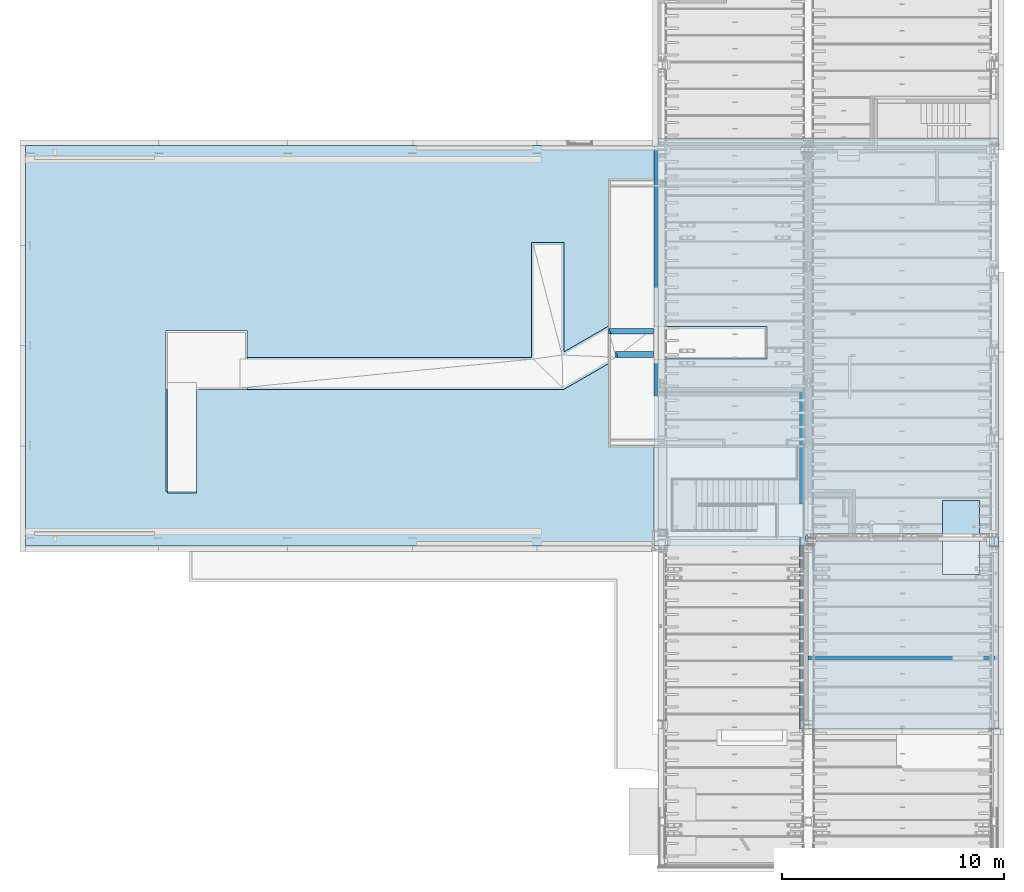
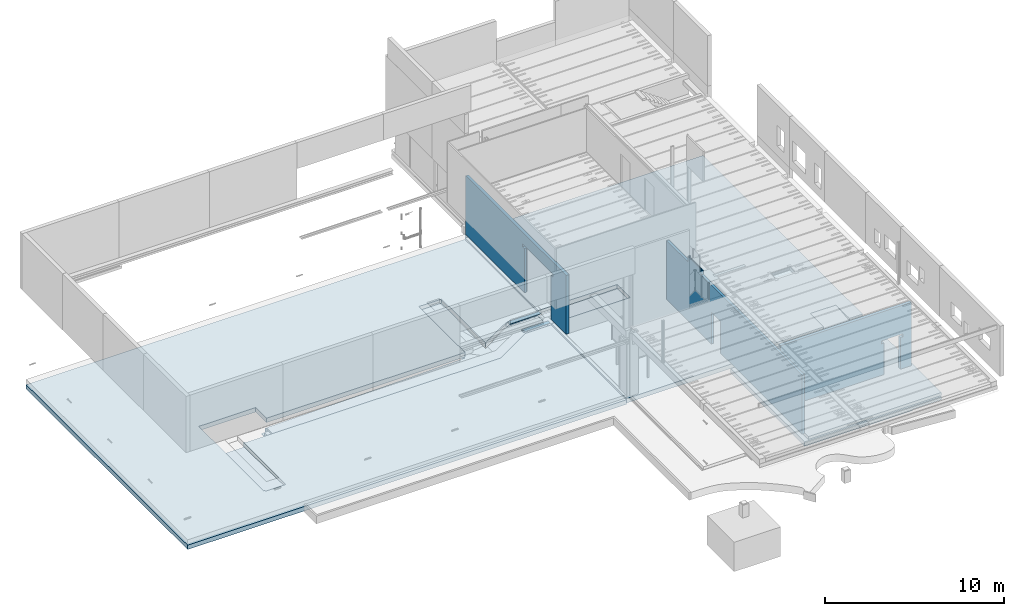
# One storey, part 210 of 230: 7 slabs, 5 walls.
"""IFC4X3_ADD2 building model written with IfcOpenShell, lengths in millimetres."""

from ifc_helpers import new_model, si_unit, direction, origin_with_axes, place, context, subcontext, project, spatial, faceted_brep, polygons, source, transform, mapped, material, type_object, type_shapes, element, save


model = new_model("IFC4X3_ADD2")

# Units and contexts
model_context = context("Model", 3, precision=1e-05, world=origin_with_axes(), true_north=direction((0.0, 1.0)))
body_context = subcontext(model_context, "Body", "Model", "MODEL_VIEW")
ifc_project = project(units=[si_unit("LENGTHUNIT", "METRE", prefix="MILLI"), si_unit("AREAUNIT", "SQUARE_METRE"), si_unit("VOLUMEUNIT", "CUBIC_METRE"), si_unit("PLANEANGLEUNIT", "RADIAN"), si_unit("TIMEUNIT", "SECOND"), si_unit("MASSUNIT", "GRAM")], contexts=[model_context])

# Site, building, storey
site_placement = place(None, origin_with_axes())
site = spatial("IfcSite", under=ifc_project, at=site_placement, Name="Site", CompositionType="ELEMENT")
building_placement = place(site_placement, origin_with_axes())
building = spatial("IfcBuilding", under=site, at=building_placement, Name="IFC Building Story")
storey_placement = place(building_placement, origin_with_axes())
storey = spatial("IfcBuildingStorey", under=building, at=storey_placement, Name="ETAGE 00 (0)", Elevation=0.0)

# Slabs
slab_type = type_object("IfcSlabType", Name="Sol_BS_13_FL_STAB50-EMPI250", PredefinedType="NOTDEFINED")
shared_shape = source(origin_with_axes(), body_context, "Body", "Tessellation", [
    polygons([(14401.6894781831, 7020.0, -1310.0), (14401.6894781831, 7020.0, -1010.0), (14401.6894781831, 8150.0, -1010.0), (14401.6894781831, 8150.0, -1280.0), (14401.6894781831, 8480.0, -1280.0), (14401.6894781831, 8480.0, -1310.0), (27506.6894781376, 8480.0, -741.3), (27506.6894781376, 8480.0, -1041.3), (14651.6894781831, 8480.0, -1280.0), (14651.6894781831, 8480.0, -1004.87409385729), (14651.689478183, 7020.0, -1305.03019118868), (14651.689478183, 7020.0, -1005.03019118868), (27506.6894781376, 13631.6303948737, -638.4000000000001), (27506.6894781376, 13631.6303948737, -938.4000000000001), (28966.689478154, 13631.6303948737, -638.4000000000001), (28966.689478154, 13631.6303948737, -938.4000000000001), (28966.689478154, 8721.576766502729, -725.4000000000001), (28966.689478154, 8721.576766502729, -1025.4), (30938.4963590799, 9860.0, -670.0), (30938.4963590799, 9860.0, -970.0), (32991.6894781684, 9860.0, -630.0), (32991.6894781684, 9860.0, -930.0), (32991.6894781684, 8400.0, -630.0), (32991.6894781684, 8400.0, -930.0), (31329.7021800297, 8400.0, -665.8), (31329.7021800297, 8400.0, -965.8), (28939.4720655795, 7020.0, -721.0), (28939.4720655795, 7020.0, -1021.0), (14651.689478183, 7047.851964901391, -1004.87409385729), (14651.689478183, 7047.851964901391, -1304.87409385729), (14651.6894781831, 8150.0, -1004.87409385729), (14731.689478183, 7056.76459366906, -1303.23380389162), (14731.689478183, 8440.0, -1303.23380389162), (14651.689478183, 8440.0, -1304.87409385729), (14651.6894781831, 8440.0, -1280.0), (14651.6894781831, 8440.0, -1004.87409385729), (14651.6894781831, 8150.0, -1280.0), (14731.689478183, 8440.0, -1003.23380389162), (14731.689478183, 7020.0, -1303.43985236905), (14731.689478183, 7020.0, -1003.43985236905), (14731.689478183, 7056.76459366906, -1003.23380389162)], [[[4, 5, 6]], [[4, 6, 1]], [[1, 2, 3]], [[1, 3, 4]], [[9, 10, 7]], [[9, 7, 8]], [[8, 6, 9]], [[6, 5, 9]], [[2, 1, 11, 12]], [[8, 7, 13, 14]], [[14, 13, 15, 16]], [[16, 15, 17, 18]], [[18, 17, 19, 20]], [[20, 19, 21, 22]], [[22, 21, 23, 24]], [[24, 23, 25, 26]], [[26, 25, 27, 28]], [[2, 12, 29]], [[11, 1, 30]], [[3, 2, 29, 31]], [[34, 30, 1]], [[34, 1, 6]], [[6, 33, 34]], [[33, 6, 8]], [[8, 32, 33]], [[27, 25, 17]], [[26, 28, 18]], [[17, 15, 13]], [[25, 23, 21]], [[7, 27, 17]], [[16, 18, 14]], [[24, 26, 22]], [[28, 8, 18]], [[13, 7, 17]], [[8, 14, 18]], [[19, 17, 25]], [[21, 19, 25]], [[18, 20, 26]], [[20, 22, 26]], [[10, 9, 35, 36]], [[37, 4, 3, 31]], [[29, 12, 11]], [[29, 11, 30]], [[30, 37, 31]], [[30, 31, 29]], [[30, 34, 37]], [[34, 35, 37]], [[32, 39, 40]], [[32, 40, 41]], [[41, 38, 33]], [[41, 33, 32]], [[35, 34, 33]], [[33, 38, 36]], [[33, 36, 35]], [[35, 9, 5]], [[5, 4, 37]], [[5, 37, 35]], [[38, 41, 7]], [[7, 10, 38]], [[10, 36, 38]], [[8, 28, 39, 32]], [[27, 7, 41, 40]], [[28, 27, 40, 39]]]),
    polygons([(11151.6894781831, 7020.0, -640.0), (11151.6894781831, 7020.0, -940.0), (11151.6894781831, 5926.96737813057, -916.964043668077), (11151.6894781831, 2370.0, -842.0), (11151.6894781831, 2370.0, -542.0), (12451.6894781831, 7020.0, -640.0), (12451.6894781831, 7020.0, -940.0), (12451.6894781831, 2370.0, -542.0), (12451.6894781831, 2370.0, -842.0), (12451.6894781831, 5926.96737813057, -916.964043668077)], [[[3, 4, 5]], [[3, 5, 1]], [[1, 2, 3]], [[2, 1, 6, 7]], [[10, 7, 6]], [[6, 8, 9]], [[6, 9, 10]], [[9, 8, 5, 4]], [[1, 5, 8, 6]], [[10, 9, 4]], [[10, 4, 3]], [[3, 2, 7]], [[3, 7, 10]]]),
])
type_shapes(slab_type, [shared_shape])
slab_1_placement = place(storey_placement, origin_with_axes())
element("IfcSlab", 1, at=slab_1_placement, inside=storey, type_object=slab_type, Name="Sol:BS_13_FL_STAB50-EMPI250", ObjectType="Sol:BS_13_FL_STAB50-EMPI250", PredefinedType="FLOOR", context=body_context, shape_type="MappedRepresentation", body=[
    mapped(shared_shape, transform((0.0, 0.0, 0.0))),
])
slab_2_placement = place(storey_placement, origin_with_axes())
element("IfcSlab", 2, at=slab_2_placement, inside=storey, Name="Sol:BS_13_FL_BTcoulé200", ObjectType="Sol:BS_13_FL_BTcoulé200", PredefinedType="FLOOR", context=body_context, shape_type="Tessellation", body=[
    polygons([(48501.68947815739, 0.0, -500.0), (48501.68947815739, -8230.00008672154, -500.0), (39951.6894781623, -8230.00008672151, -500.0), (39951.6894781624, 0.0, -500.0), (40161.6894781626, 0.0, -500.0), (40161.6894781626, 210.0, -500.0), (48116.188, 210.0, -500.0), (48116.188, 0.0, -500.0), (47651.6894781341, -1280.02487577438, -500.0), (45991.6894781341, -1280.02487577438, -500.0), (45991.6894781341, -1290.0, -500.0), (47651.6894781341, -1290.0, -500.0), (48501.68947815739, -8230.00008672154, -300.0), (48501.68947815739, 0.0, -300.0), (48116.188, 0.0, -300.0), (48116.188, 210.0, -300.0), (47651.6894781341, 210.0, -300.0), (47651.6894781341, -1290.0, -300.0), (45991.6894781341, -1290.0, -300.0), (45991.6894781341, 210.0, -300.0), (40161.6894781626, 210.0, -300.0), (40161.6894781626, 0.0, -300.0), (39951.6894781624, 0.0, -300.0), (39951.6894781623, -8230.00008672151, -300.0), (45991.6894781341, 210.0, -350.997512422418), (47651.6894781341, 210.0, -350.997512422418)], [[[8, 1, 9]], [[9, 5, 6]], [[9, 6, 7]], [[9, 7, 8]], [[12, 9, 1]], [[12, 1, 2]], [[2, 11, 12]], [[2, 3, 5]], [[2, 5, 11]], [[5, 10, 11]], [[5, 9, 10]], [[3, 4, 5]], [[15, 16, 17]], [[22, 23, 19]], [[19, 20, 21]], [[19, 21, 22]], [[19, 23, 24]], [[19, 24, 13]], [[13, 18, 19]], [[13, 14, 18]], [[15, 17, 18]], [[18, 14, 15]], [[2, 1, 14, 13]], [[3, 2, 13, 24]], [[4, 3, 24, 23]], [[5, 4, 23, 22]], [[6, 5, 22, 21]], [[26, 17, 16]], [[26, 16, 7]], [[7, 25, 26]], [[25, 7, 6]], [[6, 21, 25]], [[21, 20, 25]], [[8, 7, 16, 15]], [[1, 8, 15, 14]], [[25, 10, 9, 26]], [[9, 12, 18]], [[18, 17, 26]], [[18, 26, 9]], [[18, 12, 11, 19]], [[10, 25, 20]], [[10, 20, 19]], [[19, 11, 10]]]),
])
slab_3_placement = place(storey_placement, origin_with_axes())
element("IfcSlab", 3, at=slab_3_placement, inside=storey, Name="Sol:BS_13_FL_STAB50-EMPI250", ObjectType="Sol:BS_13_FL_STAB50-EMPI250", PredefinedType="FLOOR", context=body_context, shape_type="Tessellation", body=[
    polygons([(40161.6894781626, 460.0, -880.0), (48501.68947815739, 460.0, -880.0), (48501.68947815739, -1500.0, -880.0), (48235.1894781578, -1500.0, -880.0), (48235.1894781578, -6380.00008672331, -880.0), (46656.68947815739, -6380.00008672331, -880.0), (46656.68947815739, -8230.00008672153, -880.0), (39701.6894781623, -8230.00008672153, -880.0), (39701.6894781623, 0.0, -880.0), (40161.6894781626, 0.0, -880.0), (48501.68947815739, -8230.00008672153, -580.0), (48501.68947815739, 460.0, -580.0), (40161.6894781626, 460.0, -580.0), (40161.6894781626, 0.0, -580.0), (39701.6894781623, 0.0, -580.0), (39701.6894781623, -8230.00008672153, -580.0), (48501.68947815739, -8230.00008672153, -800.0), (48501.68947815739, -1500.0, -800.0), (46656.68947815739, -8230.00008672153, -800.0), (46656.68947815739, -6380.00008672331, -800.0), (48235.1894781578, -6380.00008672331, -800.0), (48235.1894781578, -1500.0, -800.0)], [[[6, 7, 8]], [[8, 9, 4]], [[8, 4, 6]], [[4, 5, 6]], [[10, 1, 2]], [[10, 2, 4]], [[4, 9, 10]], [[2, 3, 4]], [[14, 15, 16]], [[14, 16, 11]], [[14, 11, 12]], [[12, 13, 14]], [[18, 3, 2]], [[18, 2, 12]], [[12, 11, 17]], [[12, 17, 18]], [[19, 17, 11]], [[19, 11, 16]], [[19, 16, 8]], [[8, 7, 19]], [[2, 1, 13, 12]], [[9, 8, 16, 15]], [[10, 9, 15, 14]], [[1, 10, 14, 13]], [[21, 22, 18]], [[21, 18, 17]], [[17, 19, 20]], [[17, 20, 21]], [[20, 6, 5, 21]], [[20, 19, 7, 6]], [[22, 4, 3, 18]], [[22, 21, 5, 4]]]),
])
slab_4_placement = place(storey_placement, origin_with_axes())
element("IfcSlab", 4, at=slab_4_placement, inside=storey, Name="Sol:BS_13_FL_STAB50-EMPI250", ObjectType="Sol:BS_13_FL_STAB50-EMPI250", PredefinedType="FLOOR", context=body_context, shape_type="Tessellation", body=[
    polygons([(4766.18947818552, 18000.0, -660.0), (32991.6894781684, 18000.0, -660.0), (32991.6894781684, 9860.0, -660.0), (30938.4963590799, 9860.0, -660.0), (28966.689478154, 8721.57676650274, -660.0), (28966.689478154, 13631.6303948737, -660.0), (27506.6894781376, 13631.6303948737, -660.0), (27506.6894781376, 8480.0, -660.0), (14731.6894781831, 8480.0, -660.0), (14731.6894781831, 9680.0, -660.0), (11071.6894781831, 9680.0, -660.0), (11071.6894781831, 7020.0, -660.0), (11151.6894781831, 7020.0, -660.0), (11151.6894781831, 2370.0, -660.0), (12451.6894781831, 2370.0, -660.0), (12451.6894781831, 7100.0, -660.0), (12491.6894781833, 7100.0, -660.0), (12491.6894781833, 7020.0, -660.0), (28939.4720655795, 7020.0, -660.0), (31329.7021800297, 8400.0, -660.0), (32991.6894781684, 8400.0, -660.0), (32991.6894781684, 0.0, -660.0), (4766.18947818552, 0.0, -660.0), (32991.6894781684, 18000.0, -360.0), (4766.18947818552, 18000.0, -360.0), (4766.18947818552, 0.0, -360.0), (32991.6894781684, 0.0, -360.0), (32991.6894781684, 8400.0, -360.0), (31329.7021800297, 8400.0, -360.0), (28939.4720655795, 7020.0, -360.0), (14651.689478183, 7020.0, -360.0), (12531.6894781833, 7020.0, -360.0), (12531.6894781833, 7100.0, -360.0), (12451.6894781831, 7100.0, -360.0), (12451.6894781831, 2450.0, -360.0), (12451.6894781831, 2370.0, -360.0), (11151.6894781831, 2370.0, -360.0), (11151.6894781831, 2450.0, -360.0), (11071.6894781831, 2450.0, -360.0), (11071.6894781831, 7020.0, -360.0), (11071.6894781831, 9600.0, -360.0), (11071.6894781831, 9680.0, -360.0), (14731.6894781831, 9680.0, -360.0), (14731.6894781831, 9600.0, -360.0), (14731.6894781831, 8480.0, -360.0), (27506.6894781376, 8480.0, -360.0), (27506.6894781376, 13631.6303948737, -360.0), (28966.689478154, 13631.6303948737, -360.0), (28966.689478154, 8721.57676650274, -360.0), (30938.4963590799, 9860.0, -360.0), (32991.6894781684, 9860.0, -360.0), (11151.6894781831, 7020.0, -640.017764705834), (11151.6894781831, 2450.0, -543.703786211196), (12451.6894781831, 7100.0, -555.0), (12531.6894781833, 7100.0, -639.1786725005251), (12491.6894781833, 7100.0, -639.1786725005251), (11071.6894781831, 2450.0, -543.703786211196), (11071.6894781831, 7020.0, -640.017764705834), (12531.6894781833, 7020.0, -639.1786725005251), (12491.6894781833, 7020.0, -639.1786725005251)], [[[19, 20, 21]], [[19, 21, 22]], [[22, 15, 18]], [[22, 18, 19]], [[15, 16, 18]], [[16, 17, 18]], [[22, 23, 15]], [[23, 14, 15]], [[23, 12, 13]], [[23, 13, 14]], [[23, 1, 11]], [[23, 11, 12]], [[1, 10, 11]], [[10, 1, 7]], [[10, 7, 8]], [[8, 9, 10]], [[1, 2, 7]], [[2, 6, 7]], [[2, 4, 5]], [[2, 5, 6]], [[2, 3, 4]], [[32, 33, 34]], [[32, 34, 35]], [[35, 31, 32]], [[44, 45, 46]], [[46, 43, 44]], [[50, 51, 24]], [[50, 24, 48]], [[48, 49, 50]], [[24, 47, 48]], [[47, 24, 25]], [[47, 25, 43]], [[43, 46, 47]], [[25, 42, 43]], [[25, 41, 42]], [[25, 26, 40]], [[25, 40, 41]], [[26, 39, 40]], [[26, 37, 39]], [[37, 38, 39]], [[26, 36, 37]], [[36, 26, 27]], [[27, 30, 36]], [[30, 31, 35]], [[30, 35, 36]], [[27, 28, 30]], [[28, 29, 30]], [[2, 1, 25, 24]], [[3, 2, 24, 51]], [[4, 3, 51, 50]], [[5, 4, 50, 49]], [[6, 5, 49, 48]], [[7, 6, 48, 47]], [[7, 47, 46, 8]], [[53, 38, 37]], [[53, 37, 14]], [[14, 13, 52]], [[14, 52, 53]], [[15, 14, 37, 36]], [[54, 16, 15]], [[54, 15, 35]], [[35, 34, 54]], [[15, 36, 35]], [[54, 34, 33]], [[54, 33, 55]], [[56, 17, 16]], [[56, 16, 54]], [[54, 55, 56]], [[20, 19, 30, 29]], [[21, 20, 29, 28]], [[22, 21, 28, 27]], [[23, 22, 27, 26]], [[1, 23, 26, 25]], [[11, 10, 43, 42]], [[44, 43, 10]], [[10, 9, 45]], [[10, 45, 44]], [[58, 12, 11]], [[40, 39, 57]], [[40, 57, 58]], [[58, 11, 41]], [[58, 41, 40]], [[11, 42, 41]], [[57, 39, 38, 53]], [[58, 57, 53, 52]], [[13, 12, 58, 52]], [[32, 59, 55, 33]], [[9, 8, 46, 45]], [[31, 30, 19]], [[31, 19, 59]], [[59, 32, 31]], [[19, 18, 59]], [[18, 60, 59]], [[56, 60, 18, 17]], [[59, 60, 56, 55]]]),
])
slab_5_placement = place(storey_placement, origin_with_axes())
element("IfcSlab", 5, at=slab_5_placement, inside=storey, Name="Sol:BS_13_FL_STAB50-EMPI250", ObjectType="Sol:BS_13_FL_STAB50-EMPI250", PredefinedType="FLOOR", context=body_context, shape_type="Tessellation", body=[
    polygons([(48501.68947815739, 18330.0, -580.0), (48501.68947815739, 540.0, -580.0), (47651.6894781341, 540.0, -580.0), (47651.6894781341, 2040.0, -580.0), (47651.6894781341, 2040.50000000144, -580.0), (45991.6894781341, 2040.50000000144, -580.0), (45991.6894781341, 2040.0, -580.0), (45991.6894781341, 540.0, -580.0), (39951.6894781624, 540.0, -580.0), (39951.6894781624, 0.0, -580.0), (33011.6894781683, 0.0, -580.0), (33011.6894781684, 8400.0, -580.0), (38089.6178134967, 8400.0, -580.0), (38089.6178134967, 9860.0, -580.0), (33011.6894781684, 9860.0, -580.0), (33011.6894781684, 18000.0, -580.0), (33201.6894781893, 18000.0, -580.0), (33201.6894781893, 18330.0, -580.0), (48501.68947815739, 540.0, -280.0), (48501.68947815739, 18330.0, -280.0), (33201.6894781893, 18330.0, -280.0), (33201.6894781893, 18000.0, -280.0), (33011.6894781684, 18000.0, -280.0), (33011.6894781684, 9860.0, -280.0), (38089.6178134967, 9860.0, -280.0), (38089.6178134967, 8400.0, -280.0), (33011.6894781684, 8400.0, -280.0), (33011.6894781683, 0.0, -280.0), (39951.6894781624, 0.0, -280.0), (39951.6894781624, 210.0, -280.0), (39826.6894781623, 210.0, -280.0), (39826.6894781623, 460.0, -280.0), (39951.6894781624, 460.0, -280.0), (39951.6894781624, 540.0, -280.0), (45991.6894781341, 540.0, -280.0), (45991.6894781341, 2040.50000000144, -280.0), (47651.6894781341, 2040.50000000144, -280.0), (47651.6894781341, 540.0, -280.0), (45991.6894781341, 540.0, -430.399004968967), (39951.6894781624, 460.0, -500.0), (39951.6894781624, 210.0, -500.0), (39826.6894781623, 210.0, -500.0), (39826.6894781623, 460.0, -500.0), (47651.6894781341, 540.0, -430.0)], [[[9, 10, 11]], [[11, 7, 9]], [[7, 8, 9]], [[11, 6, 7]], [[17, 18, 14]], [[14, 15, 17]], [[15, 16, 17]], [[18, 1, 5]], [[18, 5, 14]], [[5, 13, 14]], [[6, 11, 12]], [[6, 12, 13]], [[13, 5, 6]], [[1, 2, 5]], [[2, 4, 5]], [[2, 3, 4]], [[22, 23, 24]], [[34, 35, 36]], [[34, 36, 26]], [[26, 32, 34]], [[32, 33, 34]], [[26, 27, 28]], [[26, 28, 31]], [[26, 31, 32]], [[28, 29, 31]], [[29, 30, 31]], [[37, 38, 19]], [[37, 19, 20]], [[20, 25, 26]], [[20, 26, 36]], [[20, 36, 37]], [[22, 24, 25]], [[25, 20, 21]], [[25, 21, 22]], [[2, 1, 20, 19]], [[11, 10, 29, 28]], [[1, 18, 21, 20]], [[39, 35, 34]], [[39, 34, 9]], [[9, 8, 39]], [[41, 30, 29]], [[41, 29, 10]], [[10, 9, 40]], [[10, 40, 41]], [[9, 34, 33]], [[9, 33, 40]], [[12, 11, 28, 27]], [[42, 31, 30, 41]], [[43, 40, 33, 32]], [[42, 43, 32, 31]], [[43, 42, 41, 40]], [[13, 12, 27, 26]], [[14, 13, 26, 25]], [[15, 14, 25, 24]], [[16, 15, 24, 23]], [[44, 3, 2]], [[44, 2, 19]], [[19, 38, 44]], [[44, 38, 37]], [[44, 37, 4]], [[4, 3, 44]], [[37, 5, 4]], [[6, 5, 37, 36]], [[7, 6, 36]], [[39, 8, 7]], [[7, 36, 35]], [[7, 35, 39]], [[17, 16, 23, 22]], [[18, 17, 22, 21]]]),
])
slab_6_placement = place(storey_placement, origin_with_axes())
element("IfcSlab", 6, at=slab_6_placement, inside=storey, Name="Sol:BS_13_FL_STAB50-EMPI250", ObjectType="Sol:BS_13_FL_STAB50-EMPI250", PredefinedType="FLOOR", context=body_context, shape_type="Tessellation", body=[
    polygons([(38089.6178134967, 9860.0, -535.1), (38089.6178134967, 9860.0, -835.1), (33009.6178134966, 9860.0, -929.3000000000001), (33009.6178134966, 9860.0, -629.3), (38089.6178134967, 8400.0, -535.1), (38089.6178134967, 8400.0, -835.1), (33009.6178134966, 8400.0, -629.3), (33009.6178134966, 8400.0, -800.0), (35151.68947818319, 8400.0, -800.0), (35151.68947818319, 8400.0, -889.578907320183), (33009.6178134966, 9078.839653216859, -929.3000000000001), (33009.6178134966, 9078.839653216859, -800.0), (35151.68947818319, 9078.839653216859, -889.578907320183), (35151.68947818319, 9078.839653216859, -800.0)], [[[1, 2, 3, 4]], [[2, 1, 5, 6]], [[9, 10, 6]], [[9, 6, 5]], [[5, 7, 9]], [[7, 8, 9]], [[12, 8, 7]], [[12, 7, 4]], [[4, 3, 12]], [[3, 11, 12]], [[5, 1, 4, 7]], [[13, 11, 3]], [[13, 3, 2]], [[13, 2, 6]], [[6, 10, 13]], [[14, 9, 8, 12]], [[14, 12, 11, 13]], [[9, 14, 13, 10]]]),
])
slab_7_placement = place(storey_placement, origin_with_axes())
element("IfcSlab", 7, at=slab_7_placement, inside=storey, Name="Sol:BS_13_FL_STAB50-EMPI250_EpVar", ObjectType="Sol:BS_13_FL_STAB50-EMPI250_EpVar", PredefinedType="FLOOR", context=body_context, shape_type="Tessellation", body=[
    polygons([(45991.6894781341, 2040.0, -580.0), (47651.6894781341, 2040.0, -580.0), (47651.6894781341, 540.0, -580.0), (45991.6894781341, 540.0, -580.0), (47651.6894781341, 2040.0, -280.0), (47651.6894781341, 1327.02140781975, -351.2978592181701), (47651.6894781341, 540.0, -430.0), (46959.4342538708, 540.0, -430.16639353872), (46475.5618660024, 540.0, -430.282699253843), (45991.6894781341, 540.0, -430.399004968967), (45991.6894781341, 1327.02139273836, -351.487515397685), (45991.6894781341, 2040.0, -280.0), (46821.6894781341, 2040.0, -280.0), (47167.81708896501, 2040.0, -280.0), (47187.099388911, 1209.16960994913, -363.144892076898), (46717.498162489, 1247.95622181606, -359.322944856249)], [[[1, 2, 3, 4]], [[6, 7, 3]], [[6, 3, 2]], [[2, 5, 6]], [[9, 10, 4]], [[4, 3, 8]], [[4, 8, 9]], [[3, 7, 8]], [[11, 12, 1]], [[1, 4, 10]], [[1, 10, 11]], [[14, 5, 2]], [[2, 1, 13]], [[2, 13, 14]], [[1, 12, 13]], [[15, 14, 13]], [[11, 10, 9]], [[6, 5, 14]], [[15, 13, 16]], [[11, 9, 16]], [[16, 12, 11]], [[8, 16, 9]], [[6, 15, 7]], [[16, 13, 12]], [[15, 16, 8]], [[7, 15, 8]], [[14, 15, 6]]]),
])

# Walls
ifc_material = material(Name="BS_28_Ossature en béton armé - Eléments coulé sur place")
wall_type = type_object("IfcWallType", Name="Mur de base:BS_28_WA_BTcoulé250", PredefinedType="NOTDEFINED", material=ifc_material)
wall_1_placement = place(storey_placement, origin_with_axes())
element("IfcWall", 8, at=wall_1_placement, inside=storey, type_object=wall_type, Name="Mur de base:BS_28_WA_BTcoulé250", ObjectType="Mur de base:BS_28_WA_BTcoulé250", context=body_context, shape_type="Brep", body=[
    faceted_brep([(30981.6894781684, 9642.054141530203, -338.8876743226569), (31087.80972524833, 9565.1549344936, -337.9216672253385), (30981.6894781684, 9748.960594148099, -339.63511635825), (30981.6894781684, 9530.00000000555, -338.1042419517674), (31026.91959258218, 9530.00000000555, -337.9216672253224), (30981.6894781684, 9608.340856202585, -338.6519661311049), (31026.91959258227, 9530.00000000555, -339.1923076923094), (30981.6894781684, 9608.34085620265, -339.1923076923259), (31026.91959257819, 9530.00000000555, -280.0), (31087.80972524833, 9565.15493449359, -280.0), (30981.6894781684, 9748.960594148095, -280.0), (30981.6894781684, 9780.000000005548, -280.0), (30981.6894781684, 9780.000000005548, -339.5716577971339), (30981.6894781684, 9530.00000000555, -339.63511635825), (31026.91959258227, 9530.00000000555, -339.63511635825), (32991.6894781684, 9530.00000000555, -280.0), (32991.6894781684, 9780.000000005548, -280.0), (31087.80972524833, 9565.1549344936, -339.63511635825), (32991.6894781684, 9780.000000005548, -300.0), (32667.95424095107, 9530.00000000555, -306.8846153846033), (32991.6894781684, 9530.00000000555, -300.0)], [[[0, 1, 2]], [[3, 4, 5]], [[5, 4, 6, 7]], [[6, 4, 8, 9, 1]], [[2, 10, 11, 12]], [[3, 5, 7, 0, 2, 13]], [[9, 10, 2, 1]], [[1, 0, 7, 6]], [[4, 3, 13, 14, 6]], [[10, 9, 8, 15, 16, 11]], [[14, 17, 1, 6]], [[17, 2, 1]], [[2, 12, 18, 19, 6, 1]], [[4, 6, 19, 20, 15, 8]], [[18, 20, 19]], [[17, 14, 13, 2]], [[18, 12, 11, 16]], [[20, 18, 16, 15]]]),
])
wall_2_placement = place(storey_placement, origin_with_axes())
element("IfcWall", 9, at=wall_2_placement, inside=storey, type_object=wall_type, Name="Mur de base:BS_28_WA_BTcoulé250", ObjectType="Mur de base:BS_28_WA_BTcoulé250", context=body_context, shape_type="Brep", body=[
    faceted_brep([(31380.28832146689, 8536.91168360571, -334.1272005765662), (31393.56424682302, 8529.24682452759, -333.9860363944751), (31386.92628414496, 8540.744113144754, -334.127200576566), (31277.6593469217, 8612.382039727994, -335.0691250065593), (31277.6593469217, 8730.000000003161, -335.891457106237), (31277.6593469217, 8480.000000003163, -334.1435690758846), (31281.71439392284, 8480.000000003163, -334.1272005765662), (31301.6282819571, 8491.497288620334, -334.1272005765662), (31277.6593469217, 8533.012701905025, -334.5142101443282), (31308.26624463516, 8480.00000000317, -333.9860363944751), (31308.26624463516, 8480.000000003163, -335.8000000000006), (31277.6593469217, 8533.012701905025, -335.8000000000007), (31308.26624463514, 8480.000000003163, -280.0), (31393.56424682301, 8529.246824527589, -280.0), (31277.6593469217, 8480.000000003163, -335.891457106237), (31277.6593469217, 8730.000000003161, -280.0), (31308.26624463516, 8480.000000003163, -335.891457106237), (32991.68947816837, 8480.000000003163, -280.0), (32991.68947816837, 8730.000000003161, -280.0), (31393.56424682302, 8529.24682452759, -335.891457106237), (31632.00148185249, 8730.000000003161, -328.9153846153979), (32991.68947816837, 8730.000000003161, -300.0), (32991.68947816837, 8480.000000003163, -300.0)], [[[0, 1, 2]], [[3, 0, 2, 4]], [[5, 6, 7, 8]], [[6, 9, 7]], [[8, 7, 9, 10, 11]], [[10, 9, 12, 13, 1]], [[5, 8, 11, 3, 4, 14]], [[13, 15, 4, 2, 1]], [[0, 3, 11, 10, 1]], [[6, 5, 14, 16, 10, 9]], [[15, 13, 12, 17, 18]], [[19, 4, 2, 1]], [[4, 20, 2]], [[4, 19, 16, 14]], [[16, 19, 1, 10]], [[20, 21, 22, 10, 1, 2]], [[20, 4, 15, 18, 21]], [[22, 21, 18, 17]], [[9, 10, 22, 17, 12]]]),
])
wall_3_placement = place(storey_placement, origin_with_axes())
element("IfcWall", 10, at=wall_3_placement, inside=storey, Name="Mur de base:BS_22_WA_BBTlourd190", ObjectType="Mur de base:BS_22_WA_BBTlourd190", context=body_context, shape_type="Tessellation", body=[
    polygons([(48368.68947815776, -5129.9999133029, -300.0), (48368.68947815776, -5129.9999133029, 4000.0), (39951.6894781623, -5129.9999133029, 4000.0), (39951.6894781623, -5129.9999133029, -300.0), (46601.93043128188, -5129.9999133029, -300.0), (46601.93043128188, -5129.9999133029, 1850.0), (46426.93043128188, -5129.9999133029, 1850.0), (46426.93043128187, -5129.9999133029, 2050.0), (47826.93043128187, -5129.9999133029, 2050.0), (47826.93043128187, -5129.9999133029, 1850.0), (47651.93043128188, -5129.9999133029, 1850.0), (47651.93043128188, -5129.9999133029, -300.0), (48368.68947815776, -4939.9999133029, 4000.0), (48368.68947815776, -4939.9999133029, -300.0), (47651.93043128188, -4939.9999133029, -300.0), (47651.93043128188, -4939.9999133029, 1850.0), (47826.93043128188, -4939.999913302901, 1850.0), (47826.93043128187, -4939.999913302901, 2050.0), (46426.93043128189, -4939.9999133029, 2050.0), (46426.93043128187, -4939.9999133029, 1850.0), (46601.93043128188, -4939.999913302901, 1850.0), (46601.93043128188, -4939.999913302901, -300.0), (39951.6894781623, -4939.9999133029, -300.0), (39951.6894781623, -4939.9999133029, 4000.0)], [[[10, 11, 12]], [[12, 1, 2]], [[12, 2, 10]], [[2, 9, 10]], [[2, 3, 8]], [[2, 8, 9]], [[3, 4, 7]], [[3, 7, 8]], [[4, 5, 7]], [[5, 6, 7]], [[20, 21, 22]], [[20, 22, 23]], [[20, 23, 24]], [[24, 19, 20]], [[24, 13, 18]], [[24, 18, 19]], [[13, 14, 17]], [[13, 17, 18]], [[14, 15, 16]], [[14, 16, 17]], [[4, 23, 22, 5]], [[2, 1, 14, 13]], [[3, 2, 13, 24]], [[4, 3, 24, 23]], [[6, 5, 22, 21]], [[12, 11, 16, 15]], [[9, 18, 17, 10]], [[7, 20, 19, 8]], [[18, 9, 8, 19]], [[10, 17, 16, 11]], [[20, 7, 6, 21]], [[14, 1, 12, 15]]]),
])
wall_4_placement = place(storey_placement, origin_with_axes())
element("IfcWall", 11, at=wall_4_placement, inside=storey, Name="Mur de base:BS_22_WA_CC4", ObjectType="Mur de base:BS_22_WA_CC4", context=body_context, shape_type="Tessellation", body=[
    polygons([(39549.1894781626, -8229.70991327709, 0.0), (39549.1894781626, -8229.70991327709, 4000.0), (39549.1894781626, 294.5000000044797, 4000.0), (39549.1894781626, 430.5000000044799, 4000.0), (39549.1894781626, 3039.998551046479, 4000.0), (39549.1894781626, 3039.998551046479, 4370.0), (39549.1894781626, 4434.99999998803, 4370.0), (39549.1894781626, 4515.499999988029, 4370.0), (39549.1894781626, 4515.499999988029, 4000.0), (39549.1894781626, 6739.998551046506, 4000.0), (39549.1894781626, 6895.49855104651, 4000.0), (39549.1894781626, 6895.49855104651, 0.0), (39549.1894781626, 6739.998551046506, 0.0), (39549.1894781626, 1895.00000000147, 0.0), (39549.1894781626, 1895.00000000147, 2150.0), (39549.1894781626, 895.00000000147, 2150.0), (39549.1894781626, 895.00000000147, 0.0), (39704.6894781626, -8229.70991327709, 4000.0), (39704.6894781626, -8229.70991327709, 0.0), (39704.6894781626, 895.00000000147, 0.0), (39704.6894781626, 895.00000000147, 2150.0), (39704.6894781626, 1895.00000000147, 2150.0), (39704.6894781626, 1895.00000000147, 0.0), (39704.6894781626, 6895.49855104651, 0.0), (39704.6894781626, 6895.49855104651, 4000.0), (39704.6894781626, 4515.49999998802, 4000.0), (39704.6894781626, 4515.49999998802, 4370.0), (39704.6894781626, 4467.999999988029, 4370.0), (39704.6894781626, 4467.999999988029, 4270.0), (39704.6894781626, 3039.998551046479, 4270.0), (39704.6894781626, 3039.998551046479, 4000.0), (39579.1894781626, 3039.998551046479, 4270.0), (39579.1894781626, 3039.998551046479, 4370.0), (39579.1894781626, 4467.999999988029, 4370.0), (39579.1894781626, 4467.999999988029, 4270.0)], [[[10, 11, 12]], [[12, 9, 10]], [[12, 5, 9]], [[5, 7, 8]], [[5, 8, 9]], [[5, 6, 7]], [[16, 17, 4]], [[4, 5, 15]], [[4, 15, 16]], [[5, 13, 14]], [[5, 14, 15]], [[5, 12, 13]], [[17, 3, 4]], [[17, 1, 2]], [[17, 2, 3]], [[29, 30, 31]], [[29, 31, 26]], [[26, 27, 29]], [[27, 28, 29]], [[26, 31, 22]], [[26, 22, 23]], [[26, 23, 24]], [[24, 25, 26]], [[31, 21, 22]], [[21, 31, 18]], [[18, 19, 20]], [[18, 20, 21]], [[12, 11, 25, 24]], [[16, 15, 22, 21]], [[17, 16, 21, 20]], [[15, 14, 23, 22]], [[13, 12, 24]], [[24, 23, 14]], [[24, 14, 13]], [[2, 1, 19, 18]], [[3, 2, 18]], [[18, 4, 3]], [[18, 31, 4]], [[31, 5, 4]], [[32, 33, 6]], [[32, 6, 5]], [[5, 31, 30]], [[5, 30, 32]], [[7, 6, 33]], [[7, 33, 34]], [[34, 28, 27]], [[34, 27, 8]], [[8, 7, 34]], [[10, 9, 26]], [[10, 26, 25]], [[25, 11, 10]], [[9, 8, 27, 26]], [[29, 35, 32, 30]], [[34, 35, 29, 28]], [[35, 34, 33, 32]], [[1, 17, 20, 19]]]),
])
wall_5_placement = place(storey_placement, origin_with_axes())
element("IfcWall", 12, at=wall_5_placement, inside=storey, Name="Mur de base:BS_22_WA_BBTlourd190", ObjectType="Mur de base:BS_22_WA_BBTlourd190", context=body_context, shape_type="Tessellation", body=[
    polygons([(33011.6894781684, 6739.998551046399, 4000.0), (33011.6894781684, 16419.99999995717, 4000.0), (33011.6894781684, 16422.49999995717, 4000.0), (33011.6894781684, 16459.16034673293, 4000.0), (33011.6894781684, 17945.0000000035, 4000.0), (33011.6894781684, 17945.0000000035, 0.0), (33011.6894781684, 11409.99982661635, 0.0), (33011.6894781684, 11409.99982661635, 3000.0), (33011.6894781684, 11609.99982661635, 3000.0), (33011.6894781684, 11609.99982661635, 3200.0), (33011.6894781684, 8209.99982661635, 3200.0), (33011.6894781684, 8209.99982661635, 3000.0), (33011.6894781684, 8409.99982661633, 3000.0), (33011.6894781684, 8409.99982661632, 0.0), (33011.6894781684, 6739.998551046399, 0.0), (33201.6894781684, 17945.0000000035, 4000.0), (33201.6894781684, 16419.99999995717, 4000.0), (33201.6894781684, 7128.839653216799, 4000.0), (33201.6894781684, 6938.839653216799, 4000.0), (33201.6894781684, 6895.498551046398, 4000.0), (33201.6894781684, 6739.998551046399, 4000.0), (33201.6894781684, 6739.998551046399, 0.0), (33201.6894781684, 6895.498551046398, 0.0), (33201.6894781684, 6938.839653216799, 0.0), (33201.6894781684, 7128.839653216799, 0.0), (33201.6894781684, 8369.99982661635, 0.0), (33201.6894781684, 8369.99982661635, 3000.0), (33201.6894781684, 8209.99982661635, 3000.0), (33201.6894781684, 8209.99982661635, 3200.0), (33201.6894781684, 11609.99982661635, 3200.0), (33201.6894781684, 11609.99982661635, 3000.0), (33201.6894781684, 11449.99982661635, 3000.0), (33201.6894781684, 11449.99982661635, 0.0), (33201.6894781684, 17945.0000000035, 0.0), (33141.6894781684, 11449.99982661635, 0.0), (33141.6894781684, 11409.99982661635, 0.0), (33141.6894781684, 11409.99982661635, 3000.0), (33141.6894781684, 11449.99982661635, 3000.0), (33141.6894781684, 8409.99982661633, 0.0), (33141.6894781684, 8409.99982661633, 3000.0), (33141.6894781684, 8369.99982661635, 0.0), (33141.6894781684, 8369.99982661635, 3000.0)], [[[4, 5, 6]], [[6, 3, 4]], [[6, 2, 3]], [[12, 13, 14]], [[14, 15, 1]], [[14, 1, 12]], [[1, 11, 12]], [[1, 2, 10]], [[1, 10, 11]], [[2, 9, 10]], [[2, 6, 7]], [[2, 7, 9]], [[7, 8, 9]], [[20, 21, 22]], [[20, 22, 23]], [[23, 24, 19]], [[23, 19, 20]], [[24, 25, 18]], [[24, 18, 19]], [[31, 32, 33]], [[31, 33, 34]], [[31, 34, 17]], [[17, 30, 31]], [[17, 18, 29]], [[17, 29, 30]], [[18, 28, 29]], [[28, 18, 25]], [[28, 25, 26]], [[26, 27, 28]], [[34, 16, 17]], [[35, 36, 7]], [[35, 7, 6]], [[35, 6, 34]], [[34, 33, 35]], [[18, 17, 2]], [[18, 2, 1]], [[1, 19, 18]], [[1, 20, 19]], [[1, 21, 20]], [[17, 3, 2]], [[17, 4, 3]], [[17, 16, 5]], [[17, 5, 4]], [[6, 5, 16, 34]], [[11, 29, 28, 12]], [[9, 31, 30, 10]], [[29, 11, 10, 30]], [[38, 32, 31]], [[31, 9, 8]], [[31, 8, 38]], [[8, 37, 38]], [[1, 15, 22, 21]], [[39, 14, 13, 40]], [[36, 37, 8, 7]], [[26, 41, 42, 27]], [[39, 40, 42, 41]], [[35, 33, 32, 38]], [[37, 36, 35, 38]], [[42, 40, 13]], [[42, 13, 12]], [[42, 12, 28]], [[28, 27, 42]], [[41, 26, 25]], [[23, 22, 15]], [[15, 24, 23]], [[15, 25, 24]], [[15, 14, 41]], [[15, 41, 25]], [[14, 39, 41]]]),
])

save(model, "model.ifc")
